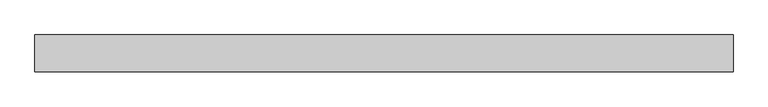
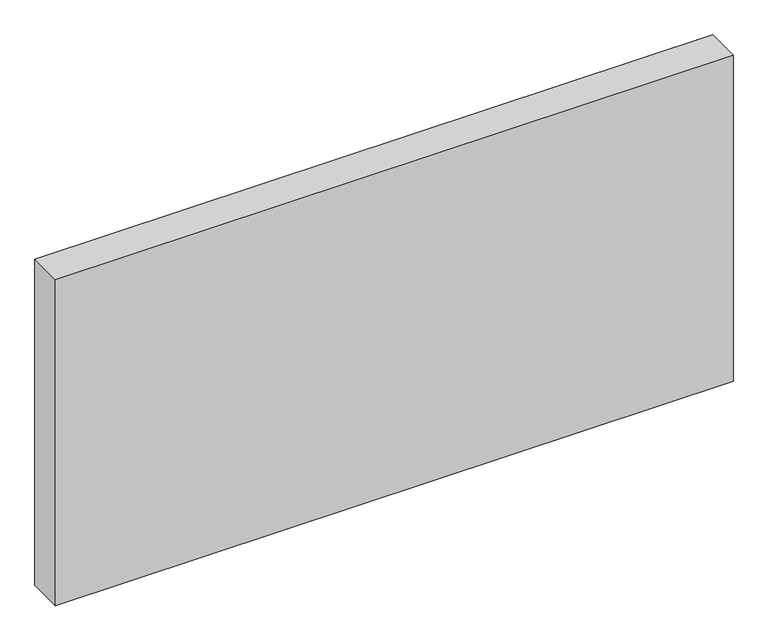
"""IFC4 building model written with IfcOpenShell, lengths in millimetres: plate geometry, Системная панель : Алюкобонд серый."""

from ifc_helpers import new_model, si_unit, origin, origin_with_axes, place, context, project, spatial, polyline, outline, extrude, source, transform, mapped, element, save


def plate_cd85660a(model_context):
    return source(origin(), model_context, "Body", "SweptSolid", [
        extrude(outline(polyline([(570.3202365, -49.5), (-570.3202365, -49.5), (-570.3202365, 10.5), (570.3202365, 10.5), (570.3202365, -49.5)])), origin_with_axes(), (0.0, 0.0, 1.0), 580.0),
    ])


if __name__ == "__main__":
    model = new_model("IFC4")
    model_context = context("Model", 3, world=origin())
    ifc_project = project(units=[si_unit("LENGTHUNIT", "METRE", prefix="MILLI")], contexts=[model_context])
    site = spatial("IfcSite", under=ifc_project)
    building = spatial("IfcBuilding", under=site)
    placement = place(None, origin())
    plate_shape = plate_cd85660a(model_context)
    element("IfcPlate", 1, ObjectType="Системная панель : Алюкобонд серый", at=placement, inside=building, context=model_context, shape_type="MappedRepresentation", body=[
        mapped(plate_shape, transform((0.0, 0.0, 0.0), x_axis=(1.0, 0.0, 0.0), y_axis=(0.0, 1.0, 0.0), z_axis=(0.0, 0.0, 1.0))),
    ])
    save(model, "model.ifc")
